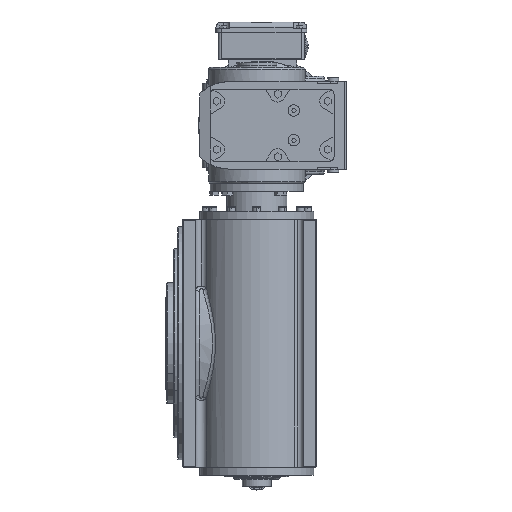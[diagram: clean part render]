
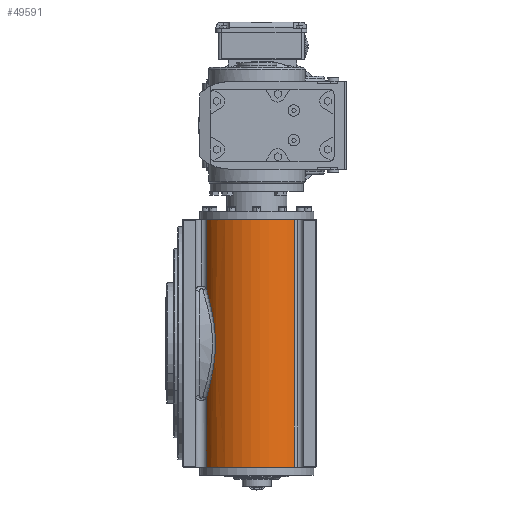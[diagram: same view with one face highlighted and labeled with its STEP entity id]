
A CAD part, left-side view. The second image highlights one B-rep face of the part: STEP entity #49591.
In plain terms, the highlighted cylindrical face has radius 71 mm (diameter 142 mm), a partial arc.
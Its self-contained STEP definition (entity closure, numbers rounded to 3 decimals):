
#1494 = CARTESIAN_POINT ( 'NONE',  ( -95., 74., -154. ) ) ;
#4190 = DIRECTION ( 'NONE',  ( 0., 0., -1. ) ) ;
#4397 = CARTESIAN_POINT ( 'NONE',  ( -143.713, 125.653, 10.36 ) ) ;
#4840 = CARTESIAN_POINT ( 'NONE',  ( -138.584, 130.076, -41.542 ) ) ;
#5274 = CARTESIAN_POINT ( 'NONE',  ( -138.57, 130.069, 41.275 ) ) ;
#6187 = CARTESIAN_POINT ( 'NONE',  ( -144.04, 125.343, -6.17 ) ) ;
#6767 = VERTEX_POINT ( 'NONE', #68141 ) ;
#6881 = CARTESIAN_POINT ( 'NONE',  ( -148.721, 27.577, -154. ) ) ;
#8974 = VERTEX_POINT ( 'NONE', #9962 ) ;
#9962 = CARTESIAN_POINT ( 'NONE',  ( -128.109, 136.808, 154. ) ) ;
#11180 = CARTESIAN_POINT ( 'NONE',  ( -130.725, 135.429, 63.555 ) ) ;
#12556 = CARTESIAN_POINT ( 'NONE',  ( -143.351, 125.993, 14.878 ) ) ;
#12988 = CARTESIAN_POINT ( 'NONE',  ( -95., 74., -154. ) ) ;
#17843 = EDGE_CURVE ( 'NONE', #73883, #27001, #73690, .T. ) ;
#18026 = DIRECTION ( 'NONE',  ( 1., 0., 0. ) ) ;
#18529 = CARTESIAN_POINT ( 'NONE',  ( -133.018, 134.012, 58.125 ) ) ;
#19424 = DIRECTION ( 'NONE',  ( 0., 0., 1. ) ) ;
#19482 = CARTESIAN_POINT ( 'NONE',  ( -128.109, 136.808, -68.859 ) ) ;
#19600 = EDGE_CURVE ( 'NONE', #8974, #44448, #46949, .T. ) ;
#19763 = CARTESIAN_POINT ( 'NONE',  ( -128.109, 136.808, -154. ) ) ;
#19956 = LINE ( 'NONE', #67503, #69546 ) ;
#20294 = EDGE_CURVE ( 'NONE', #6767, #73883, #65463, .T. ) ;
#20395 = CARTESIAN_POINT ( 'NONE',  ( -142.631, 126.653, -21.138 ) ) ;
#23879 = DIRECTION ( 'NONE',  ( 1., 0., 0. ) ) ;
#25394 = ORIENTED_EDGE ( 'NONE', *, *, #30132, .T. ) ;
#26358 = CARTESIAN_POINT ( 'NONE',  ( -141.327, 127.831, 29.758 ) ) ;
#26809 = CARTESIAN_POINT ( 'NONE',  ( -128.109, 136.808, -68.859 ) ) ;
#27001 = VERTEX_POINT ( 'NONE', #19763 ) ;
#30132 = EDGE_CURVE ( 'NONE', #27001, #81565, #77980, .T. ) ;
#30893 = FACE_OUTER_BOUND ( 'NONE', #52005, .T. ) ;
#31792 = EDGE_CURVE ( 'NONE', #81565, #44448, #19956, .T. ) ;
#32306 = CARTESIAN_POINT ( 'NONE',  ( -128.109, 136.808, 68.859 ) ) ;
#32778 = DIRECTION ( 'NONE',  ( 0., 0., 1. ) ) ;
#33677 = CARTESIAN_POINT ( 'NONE',  ( -143.2, 126.132, 16.387 ) ) ;
#34125 = CARTESIAN_POINT ( 'NONE',  ( -136.93, 131.346, -47.157 ) ) ;
#35585 = CARTESIAN_POINT ( 'NONE',  ( -148.721, 27.577, 154. ) ) ;
#38515 = AXIS2_PLACEMENT_3D ( 'NONE', #1494, #62237, #90227 ) ;
#39596 = CARTESIAN_POINT ( 'NONE',  ( -135.5, 132.319, 51.157 ) ) ;
#40485 = CARTESIAN_POINT ( 'NONE',  ( -143.692, 125.681, -12.164 ) ) ;
#44448 = VERTEX_POINT ( 'NONE', #35585 ) ;
#46882 = CARTESIAN_POINT ( 'NONE',  ( -144.049, 125.334, 2.839 ) ) ;
#46949 = CIRCLE ( 'NONE', #73215, 71. ) ;
#47486 = VECTOR ( 'NONE', #52163, 1000. ) ;
#48862 = EDGE_CURVE ( 'NONE', #6767, #8974, #52630, .T. ) ;
#49591 = ADVANCED_FACE ( 'NONE', ( #30893 ), #85332, .T. ) ;
#49914 = ORIENTED_EDGE ( 'NONE', *, *, #48862, .F. ) ;
#52005 = EDGE_LOOP ( 'NONE', ( #49914, #62274, #76425, #25394, #63258, #62940 ) ) ;
#52163 = DIRECTION ( 'NONE',  ( 0., 0., 1. ) ) ;
#52630 = LINE ( 'NONE', #73714, #47486 ) ;
#53683 = CARTESIAN_POINT ( 'NONE',  ( -137.325, 131.008, 45.529 ) ) ;
#54175 = CARTESIAN_POINT ( 'NONE',  ( -139.32, 129.475, 38.415 ) ) ;
#58542 = CARTESIAN_POINT ( 'NONE',  ( -95., 74., 154. ) ) ;
#60115 = CARTESIAN_POINT ( 'NONE',  ( -140.598, 128.429, -32.922 ) ) ;
#61481 = CARTESIAN_POINT ( 'NONE',  ( -143.967, 125.413, 5.846 ) ) ;
#61908 = CARTESIAN_POINT ( 'NONE',  ( -135.977, 131.984, 49.755 ) ) ;
#62237 = DIRECTION ( 'NONE',  ( 0., 0., 1. ) ) ;
#62274 = ORIENTED_EDGE ( 'NONE', *, *, #20294, .T. ) ;
#62940 = ORIENTED_EDGE ( 'NONE', *, *, #19600, .F. ) ;
#63258 = ORIENTED_EDGE ( 'NONE', *, *, #31792, .T. ) ;
#65463 = B_SPLINE_CURVE_WITH_KNOTS ( 'NONE', 3,
 ( #32306, #11180, #18529, #39596, #61908, #83014, #53683, #5274, #54175, #26358, #67024, #33677, #12556, #74326, #4397, #61481, #46882, #6187, #40485, #68843, #20395, #89466, #74787, #82116, #60115, #4840, #34125, #73870, #81192, #26809 ),
 .UNSPECIFIED., .F., .F.,
 ( 4, 2, 2, 2, 2, 2, 2, 2, 2, 2, 2, 2, 2, 2, 4 ),
 ( 0., 0.018, 0.023, 0.027, 0.036, 0.055, 0.059, 0.064, 0.073, 0.091, 0.095, 0.1, 0.109, 0.127, 0.145 ),
 .UNSPECIFIED. ) ;
#67024 = CARTESIAN_POINT ( 'NONE',  ( -142.345, 126.918, 23.884 ) ) ;
#67503 = CARTESIAN_POINT ( 'NONE',  ( -148.721, 27.577, -154. ) ) ;
#68141 = CARTESIAN_POINT ( 'NONE',  ( -128.109, 136.808, 68.859 ) ) ;
#68843 = CARTESIAN_POINT ( 'NONE',  ( -142.826, 126.476, -19.641 ) ) ;
#69546 = VECTOR ( 'NONE', #32778, 1000. ) ;
#73215 = AXIS2_PLACEMENT_3D ( 'NONE', #58542, #86509, #23879 ) ;
#73690 = LINE ( 'NONE', #80084, #81846 ) ;
#73714 = CARTESIAN_POINT ( 'NONE',  ( -128.109, 136.808, -500000. ) ) ;
#73870 = CARTESIAN_POINT ( 'NONE',  ( -132.999, 134.023, -58.167 ) ) ;
#73883 = VERTEX_POINT ( 'NONE', #19482 ) ;
#74326 = CARTESIAN_POINT ( 'NONE',  ( -143.607, 125.753, 11.865 ) ) ;
#74787 = CARTESIAN_POINT ( 'NONE',  ( -141.962, 127.251, -25.6 ) ) ;
#76425 = ORIENTED_EDGE ( 'NONE', *, *, #17843, .T. ) ;
#77980 = CIRCLE ( 'NONE', #38515, 71. ) ;
#78281 = AXIS2_PLACEMENT_3D ( 'NONE', #12988, #19424, #18026 ) ;
#80084 = CARTESIAN_POINT ( 'NONE',  ( -128.109, 136.808, 500000. ) ) ;
#81192 = CARTESIAN_POINT ( 'NONE',  ( -130.722, 135.43, -63.561 ) ) ;
#81565 = VERTEX_POINT ( 'NONE', #6881 ) ;
#81846 = VECTOR ( 'NONE', #4190, 1000. ) ;
#82116 = CARTESIAN_POINT ( 'NONE',  ( -141.192, 127.924, -30.015 ) ) ;
#83014 = CARTESIAN_POINT ( 'NONE',  ( -136.889, 131.329, 46.942 ) ) ;
#85332 = CYLINDRICAL_SURFACE ( 'NONE', #78281, 71. ) ;
#86509 = DIRECTION ( 'NONE',  ( 0., 0., 1. ) ) ;
#89466 = CARTESIAN_POINT ( 'NONE',  ( -142.199, 127.041, -24.119 ) ) ;
#90227 = DIRECTION ( 'NONE',  ( 1., 0., 0. ) ) ;
